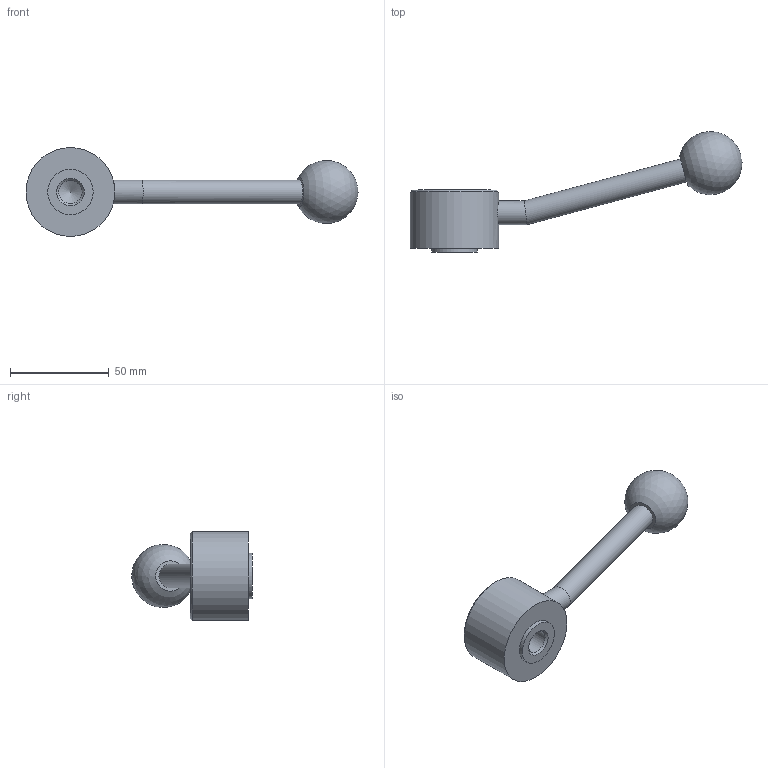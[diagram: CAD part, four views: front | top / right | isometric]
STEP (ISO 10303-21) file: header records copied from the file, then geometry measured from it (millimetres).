
FILE_DESCRIPTION( ( 'STEP AP203' ), '1' );
FILE_NAME( 'C:/Temp/Ganter_Step_05_03_2020/data/2_1/gn_125/gn_125_mb/gn_125_mb_e/Flat Adjustable Lever GN 125-45-M14-E.stp', '2020-03-05T11:00:43', ( 'License CC BY-ND 4.0' ), ( 'CADENAS' ), ' ', 'PARTsolutions', ' ' );
FILE_SCHEMA( ( 'CONFIG_CONTROL_DESIGN' ) );
Length unit declared in the file: millimetre
Products named in the file (1): _Flat Adjustable Lever GN 125-45-M14-E
Bounding box: 168.04 x 61.04 x 45 mm (x, y, z)
Volume: 72684.7 mm3; surface area: 14911 mm2
Topology: 1 solids, 1 shells, 15 faces, 27 edges, 17 vertices
Faces by surface type: cylinder 6, plane 5, cone 3, sphere 1
Full cylindrical faces by diameter (mm): 11.835 x1, 12 x2, 23 x1, 32 x1, 45 x1
Entity records: 426 total; most frequent: CARTESIAN_POINT 129, DIRECTION 58, AXIS2_PLACEMENT_3D 29, EDGE_LOOP 28, ORIENTED_EDGE 28, FACE_OUTER_BOUND 21, VERTEX_POINT 16, ADVANCED_FACE 15
